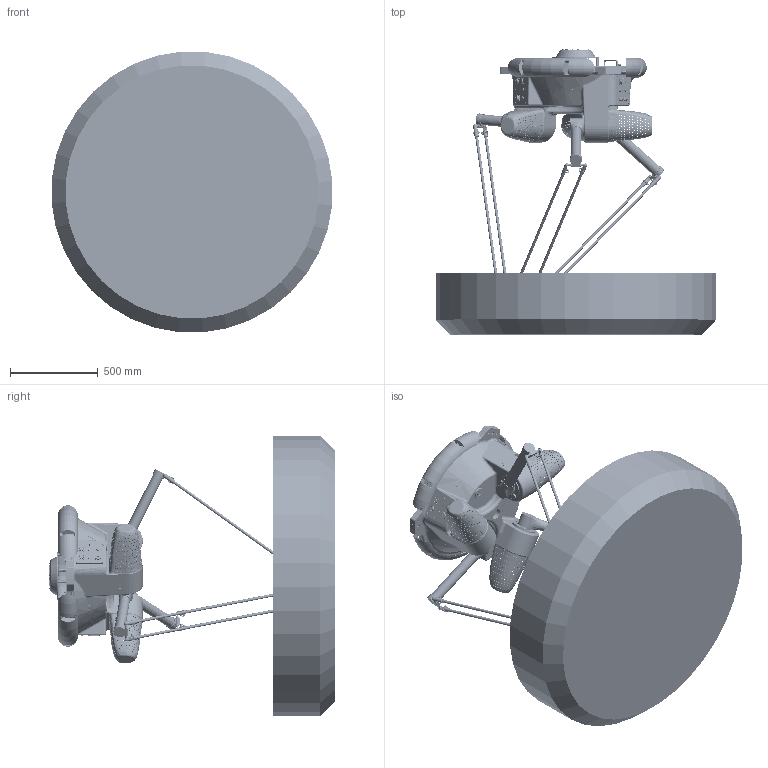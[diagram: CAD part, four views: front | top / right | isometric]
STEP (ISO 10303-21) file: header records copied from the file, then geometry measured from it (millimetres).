
FILE_DESCRIPTION (( 'STEP AP214' ), '1' );
FILE_NAME ('AP3X-1600-1543-T0-V2.0.0.STEP', '2024-10-17T05:47:14', ( '' ), ( '' ), 'SwSTEP 2.0', 'SolidWorks 2017', '' );
FILE_SCHEMA (( 'AUTOMOTIVE_DESIGN' ));
Length unit declared in the file: millimetre
Products named in the file (6): AP3X-1600-1543-T2-V2.0.0; AP3X-1600-1543-T4-V2.0.0; AP3X-1600-1543-T3-V2.0.0; AP3X-1600-1543-T0-V2.0.0; AP3X-1600-1543-T5-V2.0.0; AP3X-1600-1543-T1-V2.0.0
Assembly tree (12 placements, depth 2):
  AP3X-1600-1543-T0-V2.0.0
    AP3X-1600-1543-T1-V2.0.0
    AP3X-1600-1543-T2-V2.0.0
    AP3X-1600-1543-T3-V2.0.0  x3
    AP3X-1600-1543-T4-V2.0.0  x6
    AP3X-1600-1543-T5-V2.0.0
Bounding box: 1594.98 x 1621.8 x 1594.98 mm (x, y, z)
Volume: 687196165.8 mm3; surface area: 12119431.2 mm2
Topology: 1 solids, 799 shells, 23208 faces, 63492 edges, 40822 vertices
Faces by surface type: cylinder 8414, plane 8302, cone 2597, bspline 2555, torus 1109, sphere 231
Entity records: 1241967 total; most frequent: CARTESIAN_POINT 491183, ORIENTED_EDGE 108765, DIRECTION 94656, EDGE_CURVE 57389, VERTEX_POINT 37485, AXIS2_PLACEMENT_3D 32929, LINE 28798, VECTOR 28798
